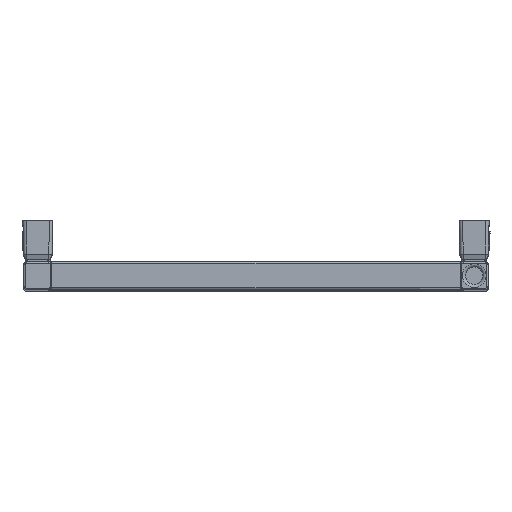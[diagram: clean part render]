
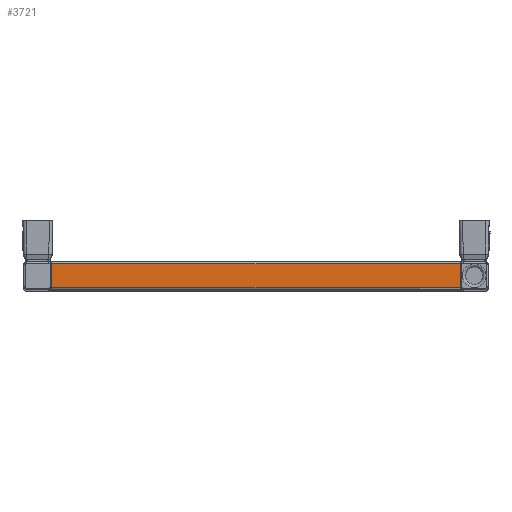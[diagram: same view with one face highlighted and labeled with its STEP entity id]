
A CAD part, top view. The second image highlights one B-rep face of the part: STEP entity #3721.
In plain terms, the highlighted planar face has unit normal (0, 0, 1).
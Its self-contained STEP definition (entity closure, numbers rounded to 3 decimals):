
#3646=CARTESIAN_POINT('',(0.0,-13.,1155.0));
#3647=DIRECTION('',(0.0,0.0,1.0));
#3648=DIRECTION('',(1.0,0.0,0.0));
#3649=AXIS2_PLACEMENT_3D('',#3646,#3647,#3648);
#3650=PLANE('',#3649);
#3651=CARTESIAN_POINT('',(220.172,13.,1155.0));
#3652=VERTEX_POINT('',#3651);
#3653=CARTESIAN_POINT('',(220.,12.,1155.0));
#3654=VERTEX_POINT('',#3653);
#3655=CARTESIAN_POINT('',(223.,12.,1155.0));
#3656=DIRECTION('',(0.0,0.0,1.0));
#3657=DIRECTION('',(0.0,1.0,0.0));
#3658=AXIS2_PLACEMENT_3D('',#3655,#3656,#3657);
#3659=CIRCLE('',#3658,3.);
#3660=EDGE_CURVE('',#3652,#3654,#3659,.T.);
#3661=ORIENTED_EDGE('',*,*,#3660,.F.);
#3662=CARTESIAN_POINT('',(-220.172,13.,1155.0));
#3663=VERTEX_POINT('',#3662);
#3664=CARTESIAN_POINT('',(220.172,13.,1155.0));
#3665=DIRECTION('',(-1.0,0.0,0.0));
#3666=VECTOR('',#3665,440.343);
#3667=LINE('',#3664,#3666);
#3668=EDGE_CURVE('',#3652,#3663,#3667,.T.);
#3669=ORIENTED_EDGE('',*,*,#3668,.T.);
#3670=CARTESIAN_POINT('',(-220.,12.,1155.0));
#3671=VERTEX_POINT('',#3670);
#3672=CARTESIAN_POINT('',(-223.,12.,1155.0));
#3673=DIRECTION('',(0.0,0.0,1.0));
#3674=DIRECTION('',(1.0,0.0,0.0));
#3675=AXIS2_PLACEMENT_3D('',#3672,#3673,#3674);
#3676=CIRCLE('',#3675,3.);
#3677=EDGE_CURVE('',#3671,#3663,#3676,.T.);
#3678=ORIENTED_EDGE('',*,*,#3677,.F.);
#3679=CARTESIAN_POINT('',(-220.,-12.,1155.0));
#3680=VERTEX_POINT('',#3679);
#3681=CARTESIAN_POINT('',(-220.,-12.,1155.0));
#3682=DIRECTION('',(0.0,1.0,0.0));
#3683=VECTOR('',#3682,24.);
#3684=LINE('',#3681,#3683);
#3685=EDGE_CURVE('',#3680,#3671,#3684,.T.);
#3686=ORIENTED_EDGE('',*,*,#3685,.F.);
#3687=CARTESIAN_POINT('',(-220.172,-13.,1155.0));
#3688=VERTEX_POINT('',#3687);
#3689=CARTESIAN_POINT('',(-223.,-12.,1155.0));
#3690=DIRECTION('',(0.0,0.0,1.0));
#3691=DIRECTION('',(0.0,-1.0,0.0));
#3692=AXIS2_PLACEMENT_3D('',#3689,#3690,#3691);
#3693=CIRCLE('',#3692,3.0);
#3694=EDGE_CURVE('',#3688,#3680,#3693,.T.);
#3695=ORIENTED_EDGE('',*,*,#3694,.F.);
#3696=CARTESIAN_POINT('',(220.172,-13.,1155.0));
#3697=VERTEX_POINT('',#3696);
#3698=CARTESIAN_POINT('',(220.172,-13.,1155.0));
#3699=DIRECTION('',(-1.0,0.0,0.0));
#3700=VECTOR('',#3699,440.343);
#3701=LINE('',#3698,#3700);
#3702=EDGE_CURVE('',#3697,#3688,#3701,.T.);
#3703=ORIENTED_EDGE('',*,*,#3702,.F.);
#3704=CARTESIAN_POINT('',(220.,-12.,1155.0));
#3705=VERTEX_POINT('',#3704);
#3706=CARTESIAN_POINT('',(223.,-12.,1155.0));
#3707=DIRECTION('',(0.0,0.0,1.0));
#3708=DIRECTION('',(-1.0,0.0,0.0));
#3709=AXIS2_PLACEMENT_3D('',#3706,#3707,#3708);
#3710=CIRCLE('',#3709,3.0);
#3711=EDGE_CURVE('',#3705,#3697,#3710,.T.);
#3712=ORIENTED_EDGE('',*,*,#3711,.F.);
#3713=CARTESIAN_POINT('',(220.,12.,1155.0));
#3714=DIRECTION('',(0.0,-1.0,0.0));
#3715=VECTOR('',#3714,24.);
#3716=LINE('',#3713,#3715);
#3717=EDGE_CURVE('',#3654,#3705,#3716,.T.);
#3718=ORIENTED_EDGE('',*,*,#3717,.F.);
#3719=EDGE_LOOP('',(#3661,#3669,#3678,#3686,#3695,#3703,#3712,#3718));
#3720=FACE_OUTER_BOUND('',#3719,.T.);
#3721=ADVANCED_FACE('',(#3720),#3650,.T.);
